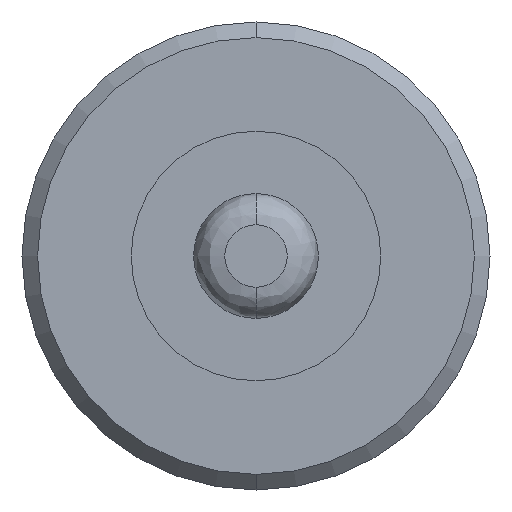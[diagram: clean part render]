
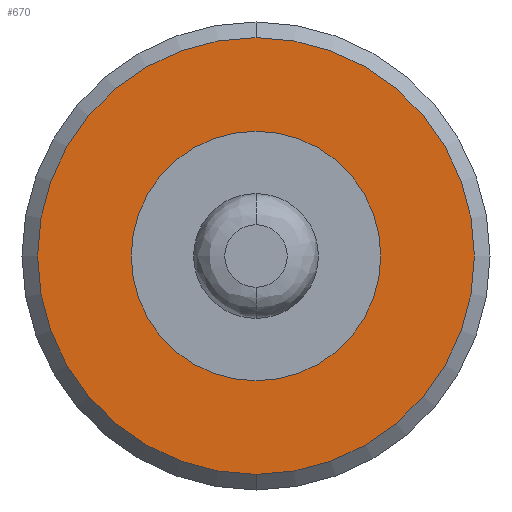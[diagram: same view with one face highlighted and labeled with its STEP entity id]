
A CAD part, front view. The second image highlights one B-rep face of the part: STEP entity #670.
In plain terms, the highlighted planar face has unit normal (0, -1, 0).
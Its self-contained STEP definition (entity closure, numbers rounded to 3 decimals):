
#141=CARTESIAN_POINT('',(0.,-2.1,0.));
#142=DIRECTION('',(0.,1.,0.));
#143=DIRECTION('',(0.,0.,-1.));
#144=AXIS2_PLACEMENT_3D('',#141,#142,#143);
#146=CARTESIAN_POINT('',(0.,-2.1,0.));
#147=DIRECTION('',(0.,-1.,0.));
#148=DIRECTION('',(0.,0.,-1.));
#149=AXIS2_PLACEMENT_3D('',#146,#147,#148);
#151=CARTESIAN_POINT('',(0.,-2.1,0.));
#152=DIRECTION('',(0.,-1.,0.));
#153=DIRECTION('',(0.,0.,-1.));
#154=AXIS2_PLACEMENT_3D('',#151,#152,#153);
#156=CARTESIAN_POINT('',(0.,-2.1,0.));
#157=DIRECTION('',(0.,1.,0.));
#158=DIRECTION('',(0.,0.,-1.));
#159=AXIS2_PLACEMENT_3D('',#156,#157,#158);
#376=CARTESIAN_POINT('',(0.,-2.1,-0.8));
#378=VERTEX_POINT('',#376);
#379=CARTESIAN_POINT('',(0.,-2.1,-1.4));
#381=VERTEX_POINT('',#379);
#420=CARTESIAN_POINT('',(0.,-2.1,0.8));
#422=VERTEX_POINT('',#420);
#423=CARTESIAN_POINT('',(0.,-2.1,1.4));
#425=VERTEX_POINT('',#423);
#655=CARTESIAN_POINT('',(0.,-2.1,0.));
#656=DIRECTION('',(0.,-1.,0.));
#657=DIRECTION('',(0.,0.,1.));
#658=AXIS2_PLACEMENT_3D('',#655,#656,#657);
#659=PLANE('',#658);
#660=ORIENTED_EDGE('',*,*,#637,.T.);
#661=ORIENTED_EDGE('',*,*,#648,.F.);
#662=EDGE_LOOP('',(#660,#661));
#663=FACE_OUTER_BOUND('',#662,.F.);
#665=ORIENTED_EDGE('',*,*,#664,.T.);
#667=ORIENTED_EDGE('',*,*,#666,.F.);
#668=EDGE_LOOP('',(#665,#667));
#669=FACE_BOUND('',#668,.F.);
#670=ADVANCED_FACE('',(#663,#669),#659,.T.);
#145=CIRCLE('',#144,1.4);
#150=CIRCLE('',#149,1.4);
#155=CIRCLE('',#154,0.8);
#160=CIRCLE('',#159,0.8);
#637=EDGE_CURVE('',#381,#425,#145,.T.);
#648=EDGE_CURVE('',#381,#425,#150,.T.);
#664=EDGE_CURVE('',#378,#422,#155,.T.);
#666=EDGE_CURVE('',#378,#422,#160,.T.);
